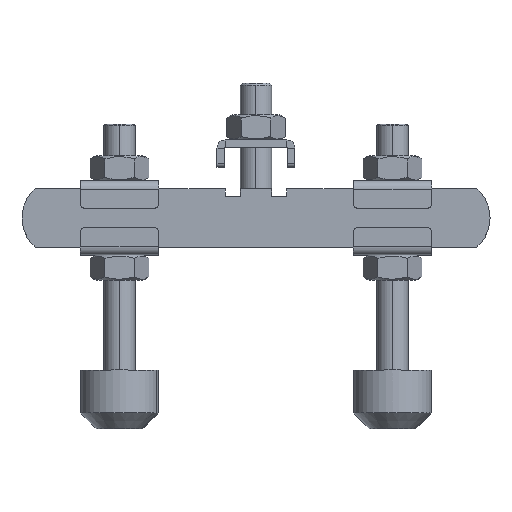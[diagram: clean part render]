
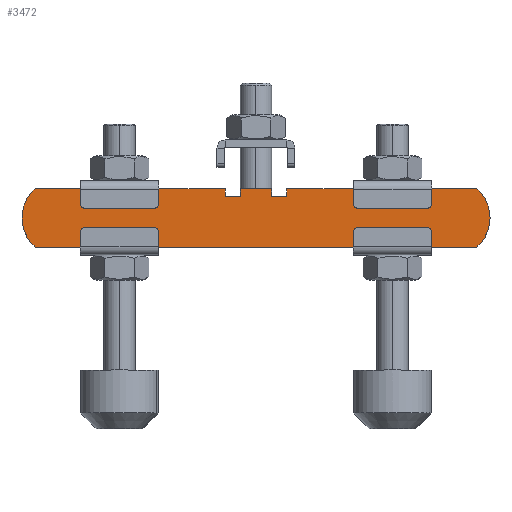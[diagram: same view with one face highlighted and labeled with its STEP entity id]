
A CAD part, top view. The second image highlights one B-rep face of the part: STEP entity #3472.
In plain terms, the highlighted planar face has unit normal (0, 0, 1).
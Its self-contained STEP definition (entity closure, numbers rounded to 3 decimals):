
#5 = CARTESIAN_POINT ( 'NONE',  ( -56.614, -7.5, 0. ) ) ;
#16 = DIRECTION ( 'NONE',  ( 0., -1., 0. ) ) ;
#83 = CIRCLE ( 'NONE', #969, 10. ) ;
#108 = VECTOR ( 'NONE', #636, 1000. ) ;
#147 = EDGE_CURVE ( 'NONE', #3399, #498, #2501, .T. ) ;
#185 = DIRECTION ( 'NONE',  ( 0., -1., 0. ) ) ;
#294 = LINE ( 'NONE', #1887, #3169 ) ;
#326 = CARTESIAN_POINT ( 'NONE',  ( 56.614, 7.5, 0. ) ) ;
#343 = DIRECTION ( 'NONE',  ( -1., 0., 0. ) ) ;
#398 = ORIENTED_EDGE ( 'NONE', *, *, #147, .T. ) ;
#418 = EDGE_CURVE ( 'NONE', #3001, #575, #3366, .T. ) ;
#438 = CARTESIAN_POINT ( 'NONE',  ( -7.9, 7.5, 0. ) ) ;
#482 = ORIENTED_EDGE ( 'NONE', *, *, #1385, .T. ) ;
#492 = CARTESIAN_POINT ( 'NONE',  ( 3.9, 7.5, 0. ) ) ;
#496 = CARTESIAN_POINT ( 'NONE',  ( -7.9, 5.5, 0. ) ) ;
#498 = VERTEX_POINT ( 'NONE', #326 ) ;
#529 = EDGE_CURVE ( 'NONE', #2678, #1576, #3111, .T. ) ;
#562 = VECTOR ( 'NONE', #16, 1000. ) ;
#569 = CARTESIAN_POINT ( 'NONE',  ( 7.9, 7.5, 0. ) ) ;
#575 = VERTEX_POINT ( 'NONE', #1704 ) ;
#594 = CARTESIAN_POINT ( 'NONE',  ( -56.614, 7.5, 0. ) ) ;
#607 = CARTESIAN_POINT ( 'NONE',  ( -3.9, 7.5, 0. ) ) ;
#624 = CARTESIAN_POINT ( 'NONE',  ( 50., 0., 0. ) ) ;
#636 = DIRECTION ( 'NONE',  ( 1., 0., 0. ) ) ;
#641 = CARTESIAN_POINT ( 'NONE',  ( -3.9, 7.5, 0. ) ) ;
#721 = ORIENTED_EDGE ( 'NONE', *, *, #2954, .T. ) ;
#724 = CIRCLE ( 'NONE', #3177, 10. ) ;
#762 = DIRECTION ( 'NONE',  ( 1., 0., 0. ) ) ;
#765 = LINE ( 'NONE', #2896, #108 ) ;
#795 = AXIS2_PLACEMENT_3D ( 'NONE', #2316, #2605, #929 ) ;
#875 = DIRECTION ( 'NONE',  ( -1., 0., 0. ) ) ;
#886 = VECTOR ( 'NONE', #1695, 1000. ) ;
#929 = DIRECTION ( 'NONE',  ( 1., 0., 0. ) ) ;
#964 = EDGE_CURVE ( 'NONE', #1384, #1215, #2523, .T. ) ;
#969 = AXIS2_PLACEMENT_3D ( 'NONE', #1489, #3444, #1769 ) ;
#977 = ORIENTED_EDGE ( 'NONE', *, *, #3320, .T. ) ;
#989 = FACE_OUTER_BOUND ( 'NONE', #2770, .T. ) ;
#1018 = VERTEX_POINT ( 'NONE', #2220 ) ;
#1044 = VERTEX_POINT ( 'NONE', #5 ) ;
#1067 = DIRECTION ( 'NONE',  ( 0., 1., 0. ) ) ;
#1078 = ORIENTED_EDGE ( 'NONE', *, *, #3512, .T. ) ;
#1126 = DIRECTION ( 'NONE',  ( 0., 0., 1. ) ) ;
#1170 = ORIENTED_EDGE ( 'NONE', *, *, #1816, .T. ) ;
#1178 = CARTESIAN_POINT ( 'NONE',  ( -7.9, 7.5, 0. ) ) ;
#1215 = VERTEX_POINT ( 'NONE', #496 ) ;
#1240 = VECTOR ( 'NONE', #1067, 1000. ) ;
#1249 = VECTOR ( 'NONE', #875, 1000. ) ;
#1310 = DIRECTION ( 'NONE',  ( 1., 0., 0. ) ) ;
#1312 = CARTESIAN_POINT ( 'NONE',  ( -56.614, -7.5, 0. ) ) ;
#1326 = LINE ( 'NONE', #569, #1240 ) ;
#1384 = VERTEX_POINT ( 'NONE', #438 ) ;
#1385 = EDGE_CURVE ( 'NONE', #498, #3095, #3135, .T. ) ;
#1403 = DIRECTION ( 'NONE',  ( -1., 0., 0. ) ) ;
#1406 = ORIENTED_EDGE ( 'NONE', *, *, #1732, .T. ) ;
#1424 = AXIS2_PLACEMENT_3D ( 'NONE', #624, #2281, #343 ) ;
#1454 = VERTEX_POINT ( 'NONE', #3189 ) ;
#1489 = CARTESIAN_POINT ( 'NONE',  ( -50., 0., 0. ) ) ;
#1499 = LINE ( 'NONE', #1312, #2992 ) ;
#1503 = ORIENTED_EDGE ( 'NONE', *, *, #2543, .F. ) ;
#1562 = VERTEX_POINT ( 'NONE', #2305 ) ;
#1566 = CARTESIAN_POINT ( 'NONE',  ( -3.9, 5.5, 0. ) ) ;
#1576 = VERTEX_POINT ( 'NONE', #641 ) ;
#1581 = VECTOR ( 'NONE', #185, 1000. ) ;
#1626 = VECTOR ( 'NONE', #3215, 1000. ) ;
#1665 = ORIENTED_EDGE ( 'NONE', *, *, #1963, .F. ) ;
#1682 = CARTESIAN_POINT ( 'NONE',  ( 50., 0., 0. ) ) ;
#1695 = DIRECTION ( 'NONE',  ( 0., 1., 0. ) ) ;
#1704 = CARTESIAN_POINT ( 'NONE',  ( 7.9, 5.5, 0. ) ) ;
#1732 = EDGE_CURVE ( 'NONE', #1384, #1018, #294, .T. ) ;
#1769 = DIRECTION ( 'NONE',  ( 1., 0., 0. ) ) ;
#1784 = VECTOR ( 'NONE', #1310, 1000. ) ;
#1816 = EDGE_CURVE ( 'NONE', #1044, #1562, #1499, .T. ) ;
#1887 = CARTESIAN_POINT ( 'NONE',  ( -56.614, 7.5, 0. ) ) ;
#1963 = EDGE_CURVE ( 'NONE', #575, #3095, #1326, .T. ) ;
#1987 = LINE ( 'NONE', #594, #1249 ) ;
#2008 = ORIENTED_EDGE ( 'NONE', *, *, #529, .F. ) ;
#2033 = PLANE ( 'NONE',  #795 ) ;
#2213 = CARTESIAN_POINT ( 'NONE',  ( 7.9, 5.5, 0. ) ) ;
#2220 = CARTESIAN_POINT ( 'NONE',  ( -56.614, 7.5, 0. ) ) ;
#2281 = DIRECTION ( 'NONE',  ( 0., 0., 1. ) ) ;
#2287 = CARTESIAN_POINT ( 'NONE',  ( 3.9, 5.5, 0. ) ) ;
#2305 = CARTESIAN_POINT ( 'NONE',  ( 56.614, -7.5, 0. ) ) ;
#2316 = CARTESIAN_POINT ( 'NONE',  ( -50., 0., 0. ) ) ;
#2475 = EDGE_CURVE ( 'NONE', #1454, #3001, #3073, .T. ) ;
#2501 = CIRCLE ( 'NONE', #1424, 10. ) ;
#2523 = LINE ( 'NONE', #1178, #562 ) ;
#2533 = ORIENTED_EDGE ( 'NONE', *, *, #964, .F. ) ;
#2543 = EDGE_CURVE ( 'NONE', #1215, #2678, #765, .T. ) ;
#2605 = DIRECTION ( 'NONE',  ( 0., 0., 1. ) ) ;
#2632 = CARTESIAN_POINT ( 'NONE',  ( 7.9, 7.5, 0. ) ) ;
#2678 = VERTEX_POINT ( 'NONE', #1566 ) ;
#2770 = EDGE_LOOP ( 'NONE', ( #1665, #3480, #2997, #977, #2008, #1503, #2533, #1406, #1078, #1170, #721, #398, #482 ) ) ;
#2822 = DIRECTION ( 'NONE',  ( -1., 0., 0. ) ) ;
#2896 = CARTESIAN_POINT ( 'NONE',  ( -7.9, 5.5, 0. ) ) ;
#2945 = CARTESIAN_POINT ( 'NONE',  ( -56.614, 7.5, 0. ) ) ;
#2954 = EDGE_CURVE ( 'NONE', #1562, #3399, #724, .T. ) ;
#2992 = VECTOR ( 'NONE', #762, 1000. ) ;
#2997 = ORIENTED_EDGE ( 'NONE', *, *, #2475, .F. ) ;
#3001 = VERTEX_POINT ( 'NONE', #2287 ) ;
#3073 = LINE ( 'NONE', #492, #1581 ) ;
#3095 = VERTEX_POINT ( 'NONE', #2632 ) ;
#3111 = LINE ( 'NONE', #607, #886 ) ;
#3114 = CARTESIAN_POINT ( 'NONE',  ( 60., 0., 0. ) ) ;
#3135 = LINE ( 'NONE', #2945, #1626 ) ;
#3169 = VECTOR ( 'NONE', #2822, 1000. ) ;
#3177 = AXIS2_PLACEMENT_3D ( 'NONE', #1682, #1126, #1403 ) ;
#3189 = CARTESIAN_POINT ( 'NONE',  ( 3.9, 7.5, 0. ) ) ;
#3215 = DIRECTION ( 'NONE',  ( -1., 0., 0. ) ) ;
#3320 = EDGE_CURVE ( 'NONE', #1454, #1576, #1987, .T. ) ;
#3366 = LINE ( 'NONE', #2213, #1784 ) ;
#3399 = VERTEX_POINT ( 'NONE', #3114 ) ;
#3444 = DIRECTION ( 'NONE',  ( 0., 0., 1. ) ) ;
#3472 = ADVANCED_FACE ( 'NONE', ( #989 ), #2033, .T. ) ;
#3480 = ORIENTED_EDGE ( 'NONE', *, *, #418, .F. ) ;
#3512 = EDGE_CURVE ( 'NONE', #1018, #1044, #83, .T. ) ;
